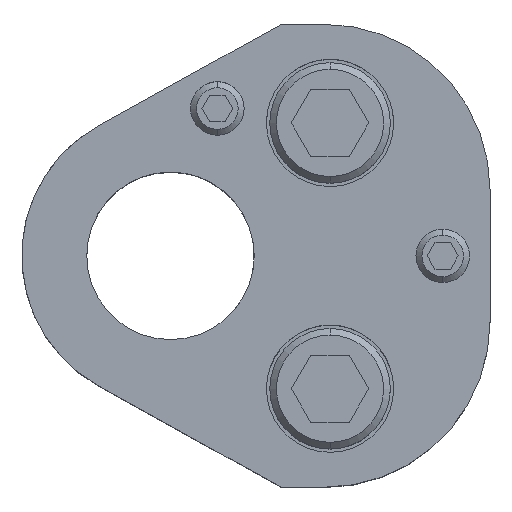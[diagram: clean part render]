
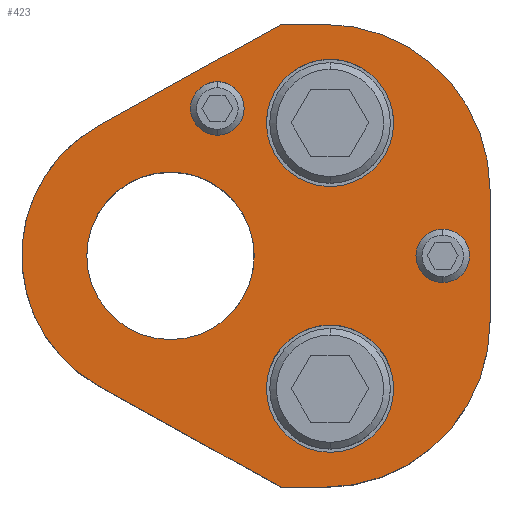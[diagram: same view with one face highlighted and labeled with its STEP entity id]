
A CAD part, top view. The second image highlights one B-rep face of the part: STEP entity #423.
In plain terms, the highlighted planar face has unit normal (0, 0, 1).
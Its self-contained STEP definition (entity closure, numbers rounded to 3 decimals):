
#198=FACE_BOUND('',#745,.T.);
#199=FACE_BOUND('',#746,.T.);
#200=FACE_BOUND('',#747,.T.);
#201=FACE_BOUND('',#748,.T.);
#202=FACE_BOUND('',#749,.T.);
#203=FACE_BOUND('',#750,.T.);
#273=CIRCLE('',#2391,24.7);
#275=CIRCLE('',#2395,24.7);
#277=CIRCLE('',#2400,4.);
#279=CIRCLE('',#2403,4.);
#281=CIRCLE('',#2406,4.);
#283=CIRCLE('',#2409,4.);
#293=CIRCLE('',#2424,22.2);
#294=CIRCLE('',#2425,9.5);
#295=CIRCLE('',#2426,9.5);
#296=CIRCLE('',#2427,9.5);
#297=CIRCLE('',#2428,9.5);
#298=CIRCLE('',#2429,12.5);
#299=CIRCLE('',#2430,12.5);
#423=ADVANCED_FACE('',(#198,#199,#200,#201,#202,#203),#519,.T.);
#519=PLANE('',#2431);
#745=EDGE_LOOP('',(#1122,#1123,#1124,#1125,#1126,#1127,#1128,#1129));
#746=EDGE_LOOP('',(#1130,#1131));
#747=EDGE_LOOP('',(#1132,#1133));
#748=EDGE_LOOP('',(#1134,#1135));
#749=EDGE_LOOP('',(#1136,#1137));
#750=EDGE_LOOP('',(#1138,#1139));
#1122=ORIENTED_EDGE('',*,*,#1797,.T.);
#1123=ORIENTED_EDGE('',*,*,#1755,.T.);
#1124=ORIENTED_EDGE('',*,*,#1759,.T.);
#1125=ORIENTED_EDGE('',*,*,#1762,.T.);
#1126=ORIENTED_EDGE('',*,*,#1765,.T.);
#1127=ORIENTED_EDGE('',*,*,#1768,.T.);
#1128=ORIENTED_EDGE('',*,*,#1771,.T.);
#1129=ORIENTED_EDGE('',*,*,#1798,.T.);
#1130=ORIENTED_EDGE('',*,*,#1799,.F.);
#1131=ORIENTED_EDGE('',*,*,#1800,.F.);
#1132=ORIENTED_EDGE('',*,*,#1801,.F.);
#1133=ORIENTED_EDGE('',*,*,#1802,.F.);
#1134=ORIENTED_EDGE('',*,*,#1783,.F.);
#1135=ORIENTED_EDGE('',*,*,#1779,.F.);
#1136=ORIENTED_EDGE('',*,*,#1777,.F.);
#1137=ORIENTED_EDGE('',*,*,#1773,.F.);
#1138=ORIENTED_EDGE('',*,*,#1803,.T.);
#1139=ORIENTED_EDGE('',*,*,#1804,.T.);
#1515=VERTEX_POINT('',#3551);
#1516=VERTEX_POINT('',#3553);
#1519=VERTEX_POINT('',#3560);
#1521=VERTEX_POINT('',#3566);
#1523=VERTEX_POINT('',#3572);
#1525=VERTEX_POINT('',#3578);
#1527=VERTEX_POINT('',#3584);
#1528=VERTEX_POINT('',#3589);
#1529=VERTEX_POINT('',#3590);
#1532=VERTEX_POINT('',#3601);
#1533=VERTEX_POINT('',#3602);
#1544=VERTEX_POINT('',#3637);
#1545=VERTEX_POINT('',#3640);
#1546=VERTEX_POINT('',#3641);
#1547=VERTEX_POINT('',#3644);
#1548=VERTEX_POINT('',#3645);
#1549=VERTEX_POINT('',#3648);
#1550=VERTEX_POINT('',#3649);
#1755=EDGE_CURVE('',#1516,#1515,#2010,.T.);
#1759=EDGE_CURVE('',#1515,#1519,#273,.T.);
#1762=EDGE_CURVE('',#1519,#1521,#2015,.T.);
#1765=EDGE_CURVE('',#1521,#1523,#275,.T.);
#1768=EDGE_CURVE('',#1523,#1525,#2019,.T.);
#1771=EDGE_CURVE('',#1525,#1527,#2022,.T.);
#1773=EDGE_CURVE('',#1528,#1529,#277,.T.);
#1777=EDGE_CURVE('',#1529,#1528,#279,.T.);
#1779=EDGE_CURVE('',#1532,#1533,#281,.T.);
#1783=EDGE_CURVE('',#1533,#1532,#283,.T.);
#1797=EDGE_CURVE('',#1544,#1516,#2032,.T.);
#1798=EDGE_CURVE('',#1527,#1544,#293,.T.);
#1799=EDGE_CURVE('',#1545,#1546,#294,.T.);
#1800=EDGE_CURVE('',#1546,#1545,#295,.T.);
#1801=EDGE_CURVE('',#1547,#1548,#296,.T.);
#1802=EDGE_CURVE('',#1548,#1547,#297,.T.);
#1803=EDGE_CURVE('',#1549,#1550,#298,.T.);
#1804=EDGE_CURVE('',#1550,#1549,#299,.T.);
#2010=LINE('',#3552,#2184);
#2015=LINE('',#3567,#2189);
#2019=LINE('',#3579,#2193);
#2022=LINE('',#3585,#2196);
#2032=LINE('',#3636,#2206);
#2184=VECTOR('',#2821,1.);
#2189=VECTOR('',#2834,1.);
#2193=VECTOR('',#2846,1.);
#2196=VECTOR('',#2851,1.);
#2206=VECTOR('',#2911,1.);
#2391=AXIS2_PLACEMENT_3D('',#3561,#2827,#2828);
#2395=AXIS2_PLACEMENT_3D('',#3573,#2839,#2840);
#2400=AXIS2_PLACEMENT_3D('',#3588,#2855,#2856);
#2403=AXIS2_PLACEMENT_3D('',#3597,#2863,#2864);
#2406=AXIS2_PLACEMENT_3D('',#3600,#2869,#2870);
#2409=AXIS2_PLACEMENT_3D('',#3609,#2877,#2878);
#2424=AXIS2_PLACEMENT_3D('',#3638,#2912,#2913);
#2425=AXIS2_PLACEMENT_3D('',#3639,#2914,#2915);
#2426=AXIS2_PLACEMENT_3D('',#3642,#2916,#2917);
#2427=AXIS2_PLACEMENT_3D('',#3643,#2918,#2919);
#2428=AXIS2_PLACEMENT_3D('',#3646,#2920,#2921);
#2429=AXIS2_PLACEMENT_3D('',#3647,#2922,#2923);
#2430=AXIS2_PLACEMENT_3D('',#3650,#2924,#2925);
#2431=AXIS2_PLACEMENT_3D('',#3651,#2926,#2927);
#2821=DIRECTION('',(1.,0.,0.));
#2827=DIRECTION('',(0.,0.,1.));
#2828=DIRECTION('',(-0.707,0.707,0.));
#2834=DIRECTION('',(0.,1.,0.));
#2839=DIRECTION('',(0.,0.,1.));
#2840=DIRECTION('',(-0.707,-0.707,0.));
#2846=DIRECTION('',(-1.,0.,0.));
#2851=DIRECTION('',(-0.875,-0.485,0.));
#2855=DIRECTION('',(0.,0.,1.));
#2856=DIRECTION('',(-1.,0.,0.));
#2863=DIRECTION('',(0.,0.,1.));
#2864=DIRECTION('',(1.,0.,0.));
#2869=DIRECTION('',(0.,0.,1.));
#2870=DIRECTION('',(-1.,0.,0.));
#2877=DIRECTION('',(0.,0.,1.));
#2878=DIRECTION('',(1.,0.,0.));
#2911=DIRECTION('',(0.875,-0.485,0.));
#2912=DIRECTION('',(0.,0.,1.));
#2913=DIRECTION('',(1.,0.,0.));
#2914=DIRECTION('',(0.,0.,1.));
#2915=DIRECTION('',(1.,0.,0.));
#2916=DIRECTION('',(0.,0.,1.));
#2917=DIRECTION('',(-1.,0.,0.));
#2918=DIRECTION('',(0.,0.,1.));
#2919=DIRECTION('',(1.,0.,0.));
#2920=DIRECTION('',(0.,0.,1.));
#2921=DIRECTION('',(-1.,0.,0.));
#2922=DIRECTION('',(0.,0.,-1.));
#2923=DIRECTION('',(-1.,0.,0.));
#2924=DIRECTION('',(0.,0.,-1.));
#2925=DIRECTION('',(1.,0.,0.));
#2926=DIRECTION('',(0.,0.,1.));
#2927=DIRECTION('',(-0.875,0.485,0.));
#3551=CARTESIAN_POINT('',(23.,-34.55,32.));
#3552=CARTESIAN_POINT('',(16.539,-34.55,32.));
#3553=CARTESIAN_POINT('',(16.539,-34.55,32.));
#3560=CARTESIAN_POINT('',(47.7,-9.85,32.));
#3561=CARTESIAN_POINT('',(23.,-9.85,32.));
#3566=CARTESIAN_POINT('',(47.7,9.85,32.));
#3567=CARTESIAN_POINT('',(47.7,9.85,32.));
#3572=CARTESIAN_POINT('',(23.,34.55,32.));
#3573=CARTESIAN_POINT('',(23.,9.85,32.));
#3578=CARTESIAN_POINT('',(16.539,34.55,32.));
#3579=CARTESIAN_POINT('',(16.539,34.55,32.));
#3584=CARTESIAN_POINT('',(-10.763,19.417,32.));
#3585=CARTESIAN_POINT('',(16.539,34.55,32.));
#3588=CARTESIAN_POINT('',(7.,22.,32.));
#3589=CARTESIAN_POINT('',(7.,18.,32.));
#3590=CARTESIAN_POINT('',(7.,26.,32.));
#3597=CARTESIAN_POINT('',(7.,22.,32.));
#3600=CARTESIAN_POINT('',(40.64,0.,32.));
#3601=CARTESIAN_POINT('',(40.64,-4.,32.));
#3602=CARTESIAN_POINT('',(40.64,4.,32.));
#3609=CARTESIAN_POINT('',(40.64,0.,32.));
#3636=CARTESIAN_POINT('',(16.539,-34.55,32.));
#3637=CARTESIAN_POINT('',(-10.763,-19.417,32.));
#3638=CARTESIAN_POINT('',(0.,0.,32.));
#3639=CARTESIAN_POINT('',(23.82,19.84,32.));
#3640=CARTESIAN_POINT('',(23.82,29.34,32.));
#3641=CARTESIAN_POINT('',(23.82,10.34,32.));
#3642=CARTESIAN_POINT('',(23.82,19.84,32.));
#3643=CARTESIAN_POINT('',(23.82,-19.84,32.));
#3644=CARTESIAN_POINT('',(23.82,-10.34,32.));
#3645=CARTESIAN_POINT('',(23.82,-29.34,32.));
#3646=CARTESIAN_POINT('',(23.82,-19.84,32.));
#3647=CARTESIAN_POINT('',(0.,0.,32.));
#3648=CARTESIAN_POINT('',(0.,12.5,32.));
#3649=CARTESIAN_POINT('',(0.,-12.5,32.));
#3650=CARTESIAN_POINT('',(0.,0.,32.));
#3651=CARTESIAN_POINT('',(-10.763,-19.417,32.));
